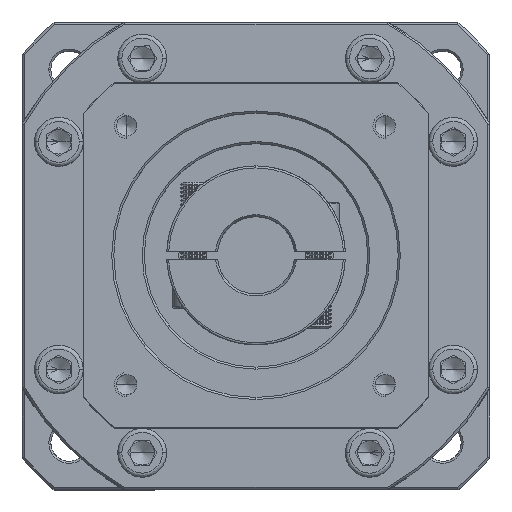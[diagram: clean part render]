
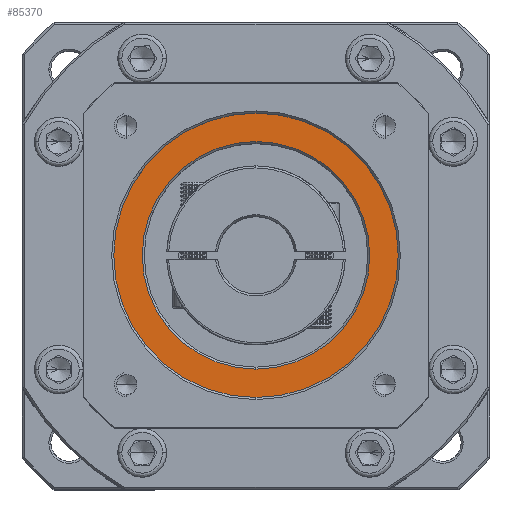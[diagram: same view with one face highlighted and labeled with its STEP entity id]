
A CAD part, top view. The second image highlights one B-rep face of the part: STEP entity #85370.
In plain terms, the highlighted planar face has unit normal (0, 0, 1).
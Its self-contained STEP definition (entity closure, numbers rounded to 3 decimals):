
#560 = EDGE_CURVE ( 'NONE', #42976, #68645, #118853, .T. ) ;
#1400 = CARTESIAN_POINT ( 'NONE',  ( 66.022, 71.454, -12.035 ) ) ;
#3638 = VERTEX_POINT ( 'NONE', #9887 ) ;
#7159 = DIRECTION ( 'NONE',  ( 0., 1., 0. ) ) ;
#8629 = CIRCLE ( 'NONE', #58766, 28. ) ;
#9887 = CARTESIAN_POINT ( 'NONE',  ( 66.022, 36.454, -12.035 ) ) ;
#13854 = EDGE_CURVE ( 'NONE', #3638, #106222, #59599, .T. ) ;
#14154 = AXIS2_PLACEMENT_3D ( 'NONE', #1400, #106865, #43555 ) ;
#15199 = AXIS2_PLACEMENT_3D ( 'NONE', #117783, #42494, #64180 ) ;
#20555 = ORIENTED_EDGE ( 'NONE', *, *, #13854, .T. ) ;
#28314 = EDGE_LOOP ( 'NONE', ( #123316, #20555 ) ) ;
#42494 = DIRECTION ( 'NONE',  ( 0., 0., 1. ) ) ;
#42976 = VERTEX_POINT ( 'NONE', #69958 ) ;
#43555 = DIRECTION ( 'NONE',  ( 0., 1., 0. ) ) ;
#53030 = CARTESIAN_POINT ( 'NONE',  ( 66.022, 71.454, -12.035 ) ) ;
#55338 = DIRECTION ( 'NONE',  ( 0., 1., 0. ) ) ;
#58766 = AXIS2_PLACEMENT_3D ( 'NONE', #53030, #118675, #55338 ) ;
#59599 = CIRCLE ( 'NONE', #15199, 35. ) ;
#64180 = DIRECTION ( 'NONE',  ( 0., 1., 0. ) ) ;
#64421 = DIRECTION ( 'NONE',  ( 0., 0., 1. ) ) ;
#64686 = CARTESIAN_POINT ( 'NONE',  ( 66.022, 43.454, -12.035 ) ) ;
#68645 = VERTEX_POINT ( 'NONE', #64686 ) ;
#69958 = CARTESIAN_POINT ( 'NONE',  ( 66.022, 99.454, -12.035 ) ) ;
#74614 = DIRECTION ( 'NONE',  ( 0., 1., 0. ) ) ;
#76378 = AXIS2_PLACEMENT_3D ( 'NONE', #123322, #80286, #7159 ) ;
#77047 = FACE_OUTER_BOUND ( 'NONE', #28314, .T. ) ;
#80245 = EDGE_CURVE ( 'NONE', #68645, #42976, #8629, .T. ) ;
#80286 = DIRECTION ( 'NONE',  ( 0., 0., 1. ) ) ;
#85370 = ADVANCED_FACE ( 'NONE', ( #77047, #130001 ), #90450, .T. ) ;
#88729 = AXIS2_PLACEMENT_3D ( 'NONE', #95397, #64421, #74614 ) ;
#90450 = PLANE ( 'NONE',  #76378 ) ;
#93405 = CARTESIAN_POINT ( 'NONE',  ( 66.022, 106.454, -12.035 ) ) ;
#95397 = CARTESIAN_POINT ( 'NONE',  ( 66.022, 71.454, -12.035 ) ) ;
#106222 = VERTEX_POINT ( 'NONE', #93405 ) ;
#106865 = DIRECTION ( 'NONE',  ( 0., 0., -1. ) ) ;
#108481 = EDGE_LOOP ( 'NONE', ( #136615, #118127 ) ) ;
#117783 = CARTESIAN_POINT ( 'NONE',  ( 66.022, 71.454, -12.035 ) ) ;
#118127 = ORIENTED_EDGE ( 'NONE', *, *, #80245, .T. ) ;
#118675 = DIRECTION ( 'NONE',  ( 0., 0., -1. ) ) ;
#118853 = CIRCLE ( 'NONE', #14154, 28. ) ;
#120116 = EDGE_CURVE ( 'NONE', #106222, #3638, #135064, .T. ) ;
#123316 = ORIENTED_EDGE ( 'NONE', *, *, #120116, .T. ) ;
#123322 = CARTESIAN_POINT ( 'NONE',  ( 66.022, 71.454, -12.035 ) ) ;
#130001 = FACE_BOUND ( 'NONE', #108481, .T. ) ;
#135064 = CIRCLE ( 'NONE', #88729, 35. ) ;
#136615 = ORIENTED_EDGE ( 'NONE', *, *, #560, .T. ) ;
